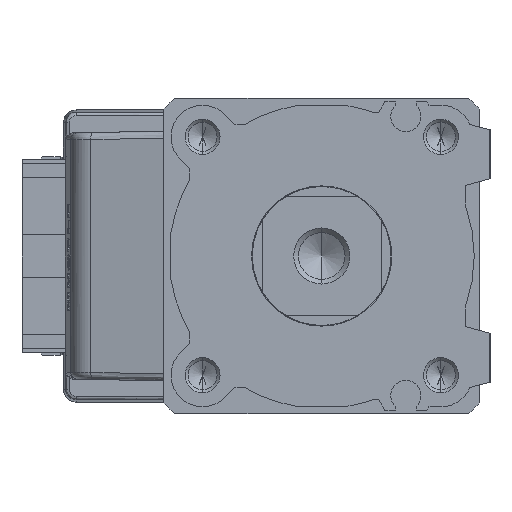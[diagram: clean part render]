
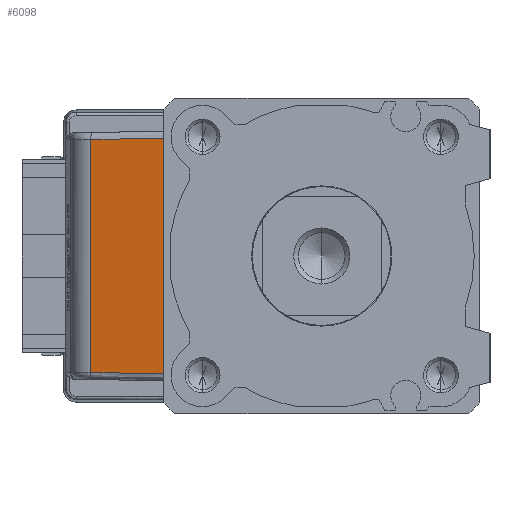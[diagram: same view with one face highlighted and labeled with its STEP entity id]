
A CAD part, left-side view. The second image highlights one B-rep face of the part: STEP entity #6098.
In plain terms, the highlighted planar face has unit normal (-0.985, 0.174, 0) as drawn and (0, 0.174, 0.985) by its records, which use the part's own axes.
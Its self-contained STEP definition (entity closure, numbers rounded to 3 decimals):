
#1261 = AXIS2_PLACEMENT_3D ( 'NONE', #36262, #20530, #5012 ) ;
#1475 = VECTOR ( 'NONE', #35961, 1000. ) ;
#3310 = VECTOR ( 'NONE', #6067, 1000. ) ;
#4473 = DIRECTION ( 'NONE',  ( 1., 0., 0. ) ) ;
#5012 = DIRECTION ( 'NONE',  ( 1., 0., 0. ) ) ;
#5901 = EDGE_CURVE ( 'NONE', #7099, #10608, #24817, .T. ) ;
#6067 = DIRECTION ( 'NONE',  ( -0.017, -0.985, 0.174 ) ) ;
#6098 = ADVANCED_FACE ( 'NONE', ( #20939 ), #11386, .F. ) ;
#6455 = CARTESIAN_POINT ( 'NONE',  ( -16.617, 32.922, -40.379 ) ) ;
#7060 = EDGE_LOOP ( 'NONE', ( #7588, #17203, #38431, #29126 ) ) ;
#7099 = VERTEX_POINT ( 'NONE', #6455 ) ;
#7332 = EDGE_CURVE ( 'NONE', #23680, #20604, #21801, .T. ) ;
#7588 = ORIENTED_EDGE ( 'NONE', *, *, #24298, .T. ) ;
#10608 = VERTEX_POINT ( 'NONE', #36949 ) ;
#11386 = PLANE ( 'NONE',  #1261 ) ;
#12044 = DIRECTION ( 'NONE',  ( -0.017, 0.985, -0.174 ) ) ;
#13329 = VECTOR ( 'NONE', #12044, 1000. ) ;
#13913 = CARTESIAN_POINT ( 'NONE',  ( 0., 21., -38.277 ) ) ;
#14570 = CARTESIAN_POINT ( 'NONE',  ( -17.568, 32.922, -40.379 ) ) ;
#15924 = EDGE_CURVE ( 'NONE', #10608, #23680, #29018, .T. ) ;
#17203 = ORIENTED_EDGE ( 'NONE', *, *, #5901, .T. ) ;
#17228 = LINE ( 'NONE', #14570, #1475 ) ;
#19578 = CARTESIAN_POINT ( 'NONE',  ( 16.825, 21., -38.277 ) ) ;
#20530 = DIRECTION ( 'NONE',  ( 0., -0.174, -0.985 ) ) ;
#20604 = VERTEX_POINT ( 'NONE', #35880 ) ;
#20939 = FACE_OUTER_BOUND ( 'NONE', #7060, .T. ) ;
#21801 = LINE ( 'NONE', #24623, #13329 ) ;
#23472 = VECTOR ( 'NONE', #4473, 1000. ) ;
#23680 = VERTEX_POINT ( 'NONE', #19578 ) ;
#24298 = EDGE_CURVE ( 'NONE', #20604, #7099, #17228, .T. ) ;
#24623 = CARTESIAN_POINT ( 'NONE',  ( 16.617, 32.905, -40.376 ) ) ;
#24817 = LINE ( 'NONE', #25025, #3310 ) ;
#25025 = CARTESIAN_POINT ( 'NONE',  ( -16.825, 20.983, -38.274 ) ) ;
#29018 = LINE ( 'NONE', #13913, #23472 ) ;
#29126 = ORIENTED_EDGE ( 'NONE', *, *, #7332, .T. ) ;
#35880 = CARTESIAN_POINT ( 'NONE',  ( 16.617, 32.922, -40.379 ) ) ;
#35961 = DIRECTION ( 'NONE',  ( -1., 0., 0. ) ) ;
#36262 = CARTESIAN_POINT ( 'NONE',  ( 0., 21.26, -38.323 ) ) ;
#36949 = CARTESIAN_POINT ( 'NONE',  ( -16.825, 21., -38.277 ) ) ;
#38431 = ORIENTED_EDGE ( 'NONE', *, *, #15924, .T. ) ;
